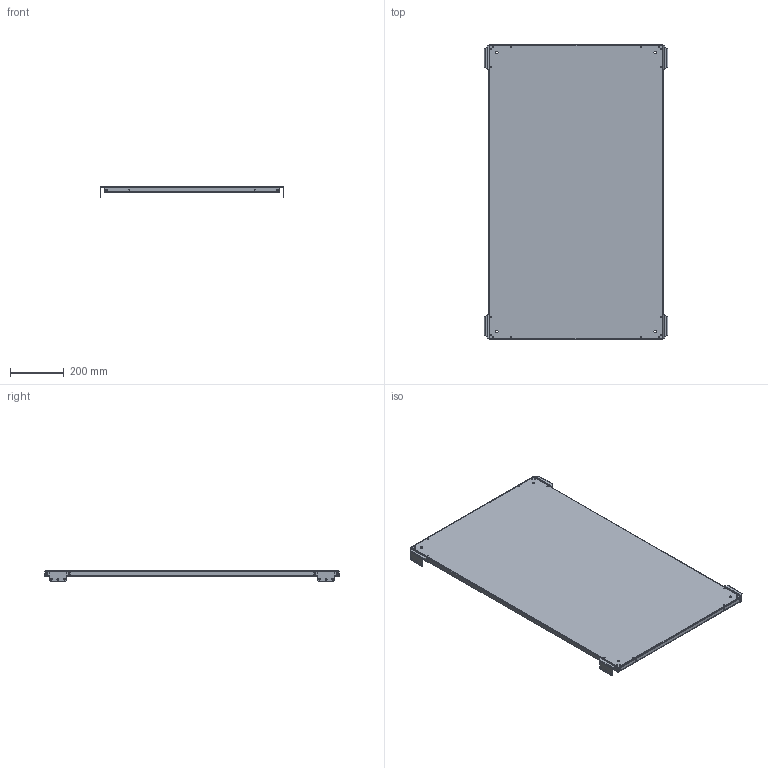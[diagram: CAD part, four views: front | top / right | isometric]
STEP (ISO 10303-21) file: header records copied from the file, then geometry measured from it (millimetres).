
FILE_DESCRIPTION (( 'STEP AP214' ), '1' );
FILE_NAME ('MP 65.110 M Ïàíåëü ìîíòàæíàÿ ñåêöèîííàÿ.STEP', '2023-11-02T11:51:46', ( '' ), ( '' ), 'SwSTEP 2.0', 'SolidWorks 2022', '' );
FILE_SCHEMA (( 'AUTOMOTIVE_DESIGN' ));
Length unit declared in the file: millimetre
Products named in the file (3): MP 65.110 M Панель монтажная секционная; MP M 00.002 Держатель панели; MP 45.15 M 00.001 Панель монтажная секционная_MP 65.110 M 00.001 Панель монтажная секционная
Assembly tree (5 placements, depth 2):
  MP 65.110 M Панель монтажная секционная
    MP 45.15 M 00.001 Панель монтажная секционная_MP 65.110 M 00.001 Панель монтажная секционная
    MP M 00.002 Держатель панели  x4
Bounding box: 685 x 1100 x 37.75 mm (x, y, z)
Volume: 1680621.4 mm3; surface area: 1693268.2 mm2
Topology: 5 solids, 5 shells, 422 faces, 1076 edges, 664 vertices
Faces by surface type: cylinder 200, plane 190, bspline 32
Entity records: 8588 total; most frequent: CARTESIAN_POINT 2462, DIRECTION 1248, ORIENTED_EDGE 1216, EDGE_CURVE 608, AXIS2_PLACEMENT_3D 464, VERTEX_POINT 376, EDGE_LOOP 350, LINE 320
